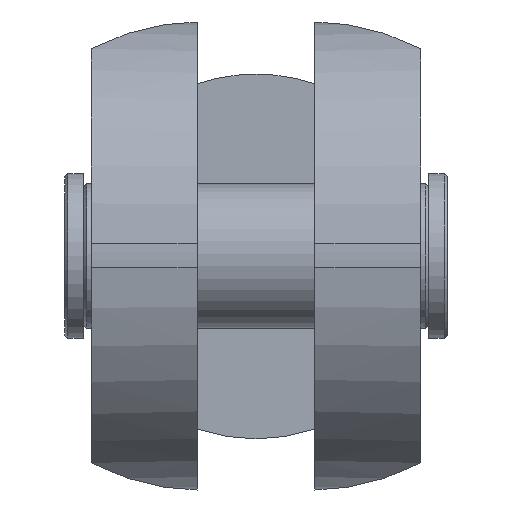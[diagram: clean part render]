
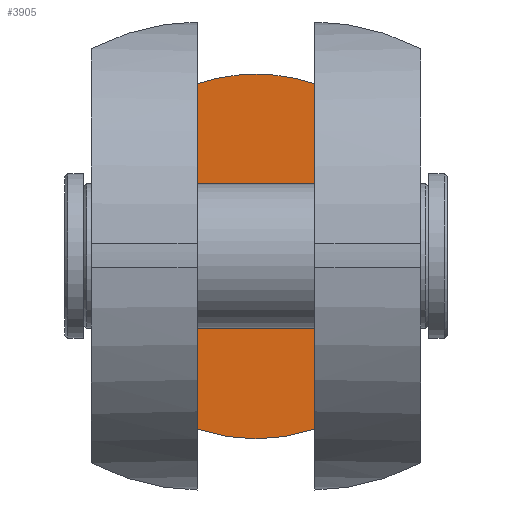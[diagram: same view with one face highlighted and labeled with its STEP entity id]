
A CAD part, top view. The second image highlights one B-rep face of the part: STEP entity #3905.
In plain terms, the highlighted planar face has unit normal (0, 0, 1).
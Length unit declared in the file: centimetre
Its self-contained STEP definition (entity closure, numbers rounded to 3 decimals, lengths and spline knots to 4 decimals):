
#462=LINE('',#6461,#826);
#463=LINE('',#6463,#827);
#826=VECTOR('',#5030,22.0138);
#827=VECTOR('',#5033,22.0138);
#1021=PLANE('',#4165);
#1297=FACE_OUTER_BOUND('',#1572,.T.);
#1572=EDGE_LOOP('',(#3446,#3447,#3448,#3449));
#1619=CIRCLE('',#4020,11.6282);
#1620=CIRCLE('',#4021,11.6282);
#1708=VERTEX_POINT('',#5296);
#1709=VERTEX_POINT('',#5300);
#1714=VERTEX_POINT('',#5332);
#1715=VERTEX_POINT('',#5336);
#2064=EDGE_CURVE('',#1708,#1709,#1619,.T.);
#2070=EDGE_CURVE('',#1714,#1715,#1620,.T.);
#2471=EDGE_CURVE('',#1715,#1708,#462,.T.);
#2472=EDGE_CURVE('',#1714,#1709,#463,.T.);
#3446=ORIENTED_EDGE('',*,*,#2070,.F.);
#3447=ORIENTED_EDGE('',*,*,#2472,.T.);
#3448=ORIENTED_EDGE('',*,*,#2064,.F.);
#3449=ORIENTED_EDGE('',*,*,#2471,.F.);
#3905=ADVANCED_FACE('',(#1297),#1021,.F.);
#4020=AXIS2_PLACEMENT_3D('',#5301,#4406,#4407);
#4021=AXIS2_PLACEMENT_3D('',#5337,#4408,#4409);
#4165=AXIS2_PLACEMENT_3D('',#6462,#5031,#5032);
#4406=DIRECTION('center_axis',(0.,0.,
-1.));
#4407=DIRECTION('ref_axis',(0.,1.,0.));
#4408=DIRECTION('center_axis',(0.,0.,
-1.));
#4409=DIRECTION('ref_axis',(0.,1.,0.));
#5030=DIRECTION('',(0.,-1.,0.));
#5031=DIRECTION('center_axis',(0.,0.,
-1.));
#5032=DIRECTION('ref_axis',(1.,0.,0.));
#5033=DIRECTION('',(0.,-1.,0.));
#5296=CARTESIAN_POINT('',(3.75,-11.0069,-17.65));
#5300=CARTESIAN_POINT('',(-3.75,-11.0069,-17.65));
#5301=CARTESIAN_POINT('Origin',(0.,0.,
-17.65));
#5332=CARTESIAN_POINT('',(-3.75,11.0069,-17.65));
#5336=CARTESIAN_POINT('',(3.75,11.0069,-17.65));
#5337=CARTESIAN_POINT('Origin',(0.,0.,
-17.65));
#6461=CARTESIAN_POINT('',(3.75,0.,-17.65));
#6462=CARTESIAN_POINT('Origin',(-3.75,0.,-17.65));
#6463=CARTESIAN_POINT('',(-3.75,0.,-17.65));
